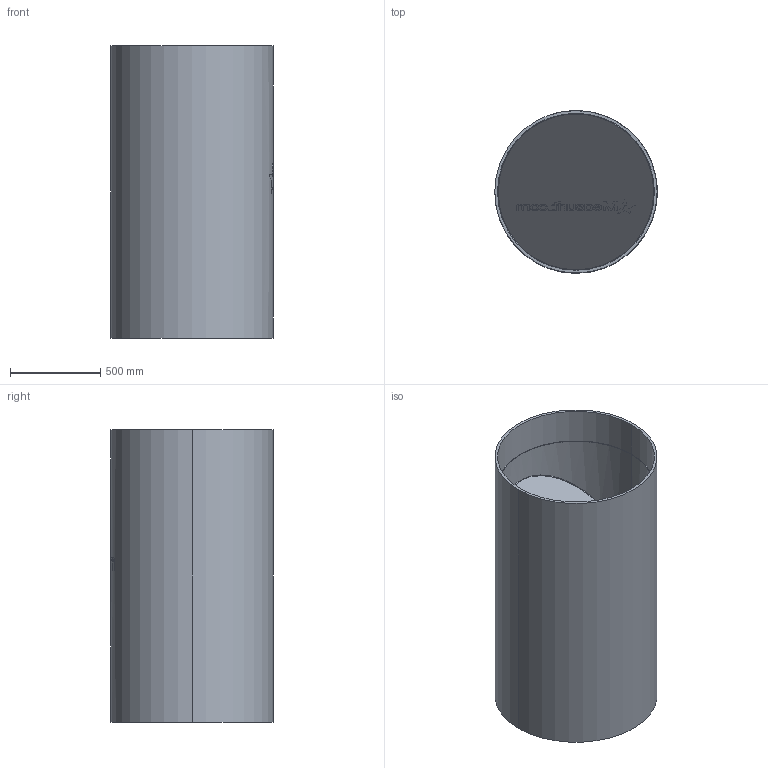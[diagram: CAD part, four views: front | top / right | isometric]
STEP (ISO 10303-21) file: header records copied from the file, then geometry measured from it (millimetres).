
FILE_DESCRIPTION (( 'STEP AP214' ), '1' );
FILE_NAME ('CF-IL-G5-S0900-NN-316-IDP.STEP', '2023-05-26T07:28:21', ( '' ), ( '' ), 'SwSTEP 2.0', 'SolidWorks 2022', '' );
FILE_SCHEMA (( 'AUTOMOTIVE_DESIGN' ));
Length unit declared in the file: millimetre
Products named in the file (3): Clamp- 900_900; CF-IL-G5-S0900-NN-316-IDP_CM-0100-B; CF-IL-G5-S0900-NN-316-IDP
Assembly tree (3 placements, depth 2):
  CF-IL-G5-S0900-NN-316-IDP
    CF-IL-G5-S0900-NN-316-IDP_CM-0100-B
    Clamp- 900_900  x2
Bounding box: 900.5 x 900.5 x 1620 mm (x, y, z)
Volume: 84054184.9 mm3; surface area: 11632190.1 mm2
Topology: 21 solids, 21 shells, 2579 faces, 6812 edges, 4314 vertices
Faces by surface type: plane 912, bspline 672, cone 540, cylinder 455
Entity records: 87542 total; most frequent: CARTESIAN_POINT 27399, ORIENTED_EDGE 11078, DIRECTION 6201, EDGE_CURVE 5539, VERTEX_POINT 3592, B_SPLINE_CURVE_WITH_KNOTS 2492, LINE 2483, VECTOR 2483
